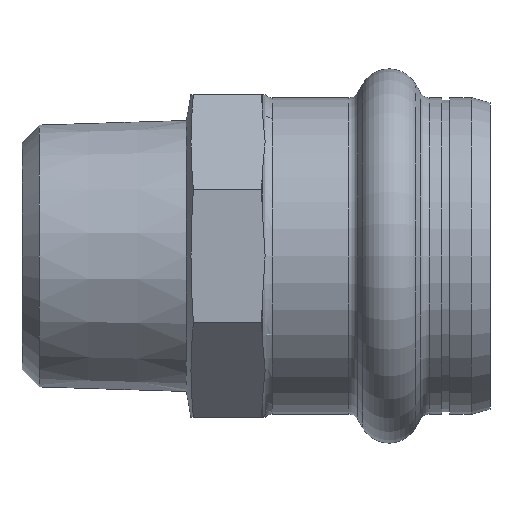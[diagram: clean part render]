
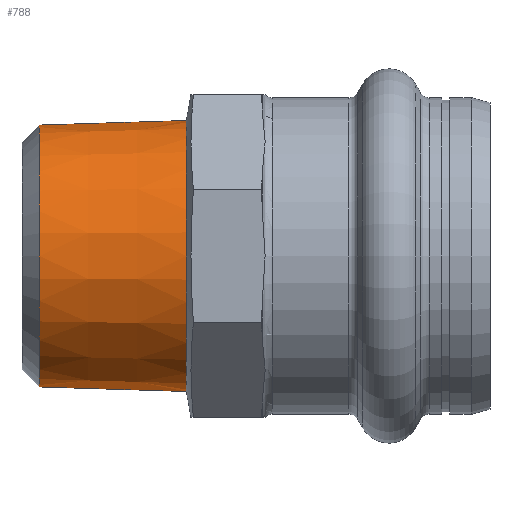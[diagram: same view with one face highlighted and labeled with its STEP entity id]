
A CAD part, left-side view. The second image highlights one B-rep face of the part: STEP entity #788.
In plain terms, the highlighted conical face has half-angle 1.78 degrees and reference radius 13.432 mm.
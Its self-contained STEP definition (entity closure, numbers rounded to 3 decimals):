
#58 = EDGE_CURVE ( 'NONE', #935, #1650, #67, .T. ) ;
#67 = CIRCLE ( 'NONE', #209, 12.979 ) ;
#110 = CARTESIAN_POINT ( 'NONE',  ( 0., 30.1, 0. ) ) ;
#135 = DIRECTION ( 'NONE',  ( 0., -1., 0. ) ) ;
#142 = ORIENTED_EDGE ( 'NONE', *, *, #1653, .T. ) ;
#149 = DIRECTION ( 'NONE',  ( 0., 0., -1. ) ) ;
#151 = AXIS2_PLACEMENT_3D ( 'NONE', #110, #135, #149 ) ;
#209 = AXIS2_PLACEMENT_3D ( 'NONE', #553, #419, #409 ) ;
#228 = DIRECTION ( 'NONE',  ( 0., -1., 0. ) ) ;
#323 = ORIENTED_EDGE ( 'NONE', *, *, #836, .F. ) ;
#409 = DIRECTION ( 'NONE',  ( 0., 0., -1. ) ) ;
#419 = DIRECTION ( 'NONE',  ( 0., -1., 0. ) ) ;
#444 = CONICAL_SURFACE ( 'NONE', #1995, 13.432, 0.031 ) ;
#461 = ORIENTED_EDGE ( 'NONE', *, *, #58, .T. ) ;
#553 = CARTESIAN_POINT ( 'NONE',  ( 0., 44.671, 0. ) ) ;
#618 = DIRECTION ( 'NONE',  ( 0., -1., -0.031 ) ) ;
#648 = CARTESIAN_POINT ( 'NONE',  ( 0., 30.1, -13.432 ) ) ;
#656 = VERTEX_POINT ( 'NONE', #1723 ) ;
#657 = CARTESIAN_POINT ( 'NONE',  ( 0., 44.671, -12.979 ) ) ;
#719 = VECTOR ( 'NONE', #618, 1000. ) ;
#788 = ADVANCED_FACE ( 'NONE', ( #927 ), #444, .T. ) ;
#794 = DIRECTION ( 'NONE',  ( 0., 0., -1. ) ) ;
#836 = EDGE_CURVE ( 'NONE', #858, #656, #1287, .T. ) ;
#850 = CARTESIAN_POINT ( 'NONE',  ( 0., 30.1, 13.432 ) ) ;
#857 = EDGE_LOOP ( 'NONE', ( #1686, #461, #142, #323 ) ) ;
#858 = VERTEX_POINT ( 'NONE', #850 ) ;
#890 = CARTESIAN_POINT ( 'NONE',  ( 0., 30.1, 13.432 ) ) ;
#899 = DIRECTION ( 'NONE',  ( 0., -1., 0.031 ) ) ;
#912 = CARTESIAN_POINT ( 'NONE',  ( 0., 30.1, 0. ) ) ;
#927 = FACE_OUTER_BOUND ( 'NONE', #857, .T. ) ;
#935 = VERTEX_POINT ( 'NONE', #1874 ) ;
#1239 = EDGE_CURVE ( 'NONE', #935, #858, #1781, .T. ) ;
#1287 = CIRCLE ( 'NONE', #151, 13.432 ) ;
#1362 = VECTOR ( 'NONE', #899, 1000. ) ;
#1650 = VERTEX_POINT ( 'NONE', #657 ) ;
#1653 = EDGE_CURVE ( 'NONE', #1650, #656, #1967, .T. ) ;
#1686 = ORIENTED_EDGE ( 'NONE', *, *, #1239, .F. ) ;
#1723 = CARTESIAN_POINT ( 'NONE',  ( 0., 30.1, -13.432 ) ) ;
#1781 = LINE ( 'NONE', #890, #1362 ) ;
#1874 = CARTESIAN_POINT ( 'NONE',  ( 0., 44.671, 12.979 ) ) ;
#1967 = LINE ( 'NONE', #648, #719 ) ;
#1995 = AXIS2_PLACEMENT_3D ( 'NONE', #912, #228, #794 ) ;
